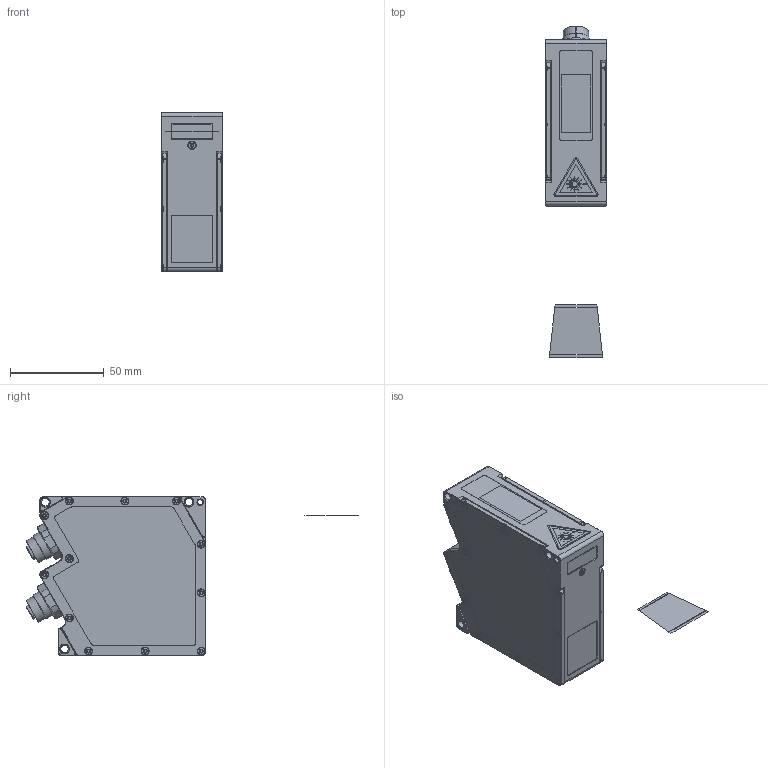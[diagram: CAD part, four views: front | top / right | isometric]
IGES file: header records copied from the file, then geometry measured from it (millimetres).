
Start section: SolidWorks IGES file using analytic representation for surfaces
Global section: file name: C:\Old E Drive\Solid Works\Micro e\DS925B.IGS; native system: SolidWorks 2014; preprocessor: SolidWorks 2014; author: gcostiga; date: 140924.143233; units: millimetre
Bounding box: 33 x 177.49 x 85.16 mm (x, y, z)
Surface area: 33231.7 mm2 (no closed solid volume)
Topology: 0 solids, 0 shells, 1793 faces, 22153 edges, 22103 vertices
Faces by surface type: revolution 1118, bspline 675
